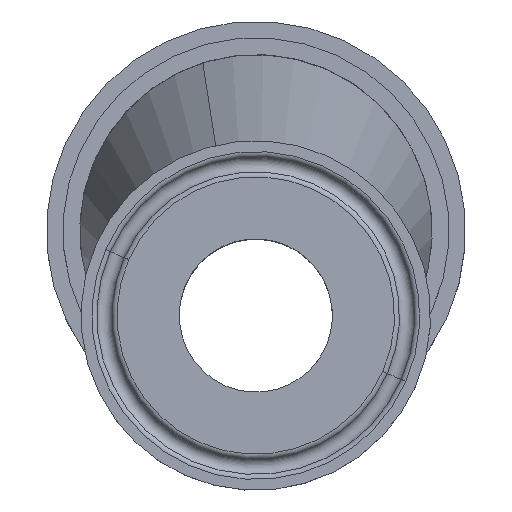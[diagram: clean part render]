
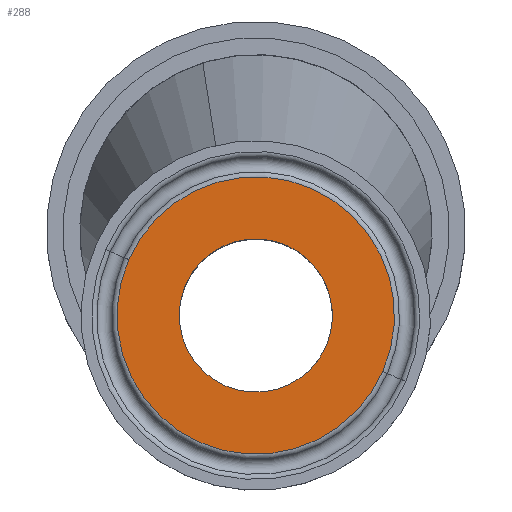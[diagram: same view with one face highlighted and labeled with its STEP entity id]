
A CAD part, top view. The second image highlights one B-rep face of the part: STEP entity #288.
In plain terms, the highlighted planar face has unit normal (0, 0.002, 1) as drawn and (0, -1, 0) by its records, which use the part's own axes.
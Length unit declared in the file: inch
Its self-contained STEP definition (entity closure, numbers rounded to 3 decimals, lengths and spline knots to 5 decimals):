
#14 = EDGE_CURVE ( 'NONE', #1911, #56, #313, .T. ) ;
#43 = DIRECTION ( 'NONE',  ( 0., 0., -1. ) ) ;
#56 = VERTEX_POINT ( 'NONE', #648 ) ;
#59 = AXIS2_PLACEMENT_3D ( 'NONE', #1173, #1028, #1067 ) ;
#63 = DIRECTION ( 'NONE',  ( 0., -1., 0. ) ) ;
#73 = EDGE_CURVE ( 'NONE', #56, #1911, #905, .T. ) ;
#288 = ADVANCED_FACE ( 'NONE', ( #1426, #1596 ), #1702, .F. ) ;
#313 = CIRCLE ( 'NONE', #59, 0.435 ) ;
#315 = CARTESIAN_POINT ( 'NONE',  ( 0., 0., 0. ) ) ;
#348 = VERTEX_POINT ( 'NONE', #411 ) ;
#352 = CARTESIAN_POINT ( 'NONE',  ( 0., 0., -0.78742 ) ) ;
#411 = CARTESIAN_POINT ( 'NONE',  ( 0., 0., 0.78742 ) ) ;
#434 = EDGE_LOOP ( 'NONE', ( #457, #1878 ) ) ;
#457 = ORIENTED_EDGE ( 'NONE', *, *, #1824, .T. ) ;
#648 = CARTESIAN_POINT ( 'NONE',  ( 0., 0., -0.435 ) ) ;
#705 = DIRECTION ( 'NONE',  ( 0., 1., 0. ) ) ;
#769 = DIRECTION ( 'NONE',  ( 0., -1., 0. ) ) ;
#805 = CARTESIAN_POINT ( 'NONE',  ( 0., 0., 0.435 ) ) ;
#815 = CARTESIAN_POINT ( 'NONE',  ( 0., 0., 0. ) ) ;
#856 = DIRECTION ( 'NONE',  ( 0., 0., 1. ) ) ;
#863 = ORIENTED_EDGE ( 'NONE', *, *, #14, .F. ) ;
#905 = CIRCLE ( 'NONE', #1774, 0.435 ) ;
#958 = DIRECTION ( 'NONE',  ( 0., -1., 0. ) ) ;
#977 = EDGE_CURVE ( 'NONE', #348, #1580, #1341, .T. ) ;
#984 = CARTESIAN_POINT ( 'NONE',  ( 0., 0., 0. ) ) ;
#1028 = DIRECTION ( 'NONE',  ( 0., -1., 0. ) ) ;
#1067 = DIRECTION ( 'NONE',  ( 0., 0., -1. ) ) ;
#1114 = DIRECTION ( 'NONE',  ( 0., 0., -1. ) ) ;
#1126 = AXIS2_PLACEMENT_3D ( 'NONE', #984, #705, #856 ) ;
#1173 = CARTESIAN_POINT ( 'NONE',  ( 0., 0., 0. ) ) ;
#1181 = ORIENTED_EDGE ( 'NONE', *, *, #73, .F. ) ;
#1276 = AXIS2_PLACEMENT_3D ( 'NONE', #315, #769, #1323 ) ;
#1323 = DIRECTION ( 'NONE',  ( 0., 0., -1. ) ) ;
#1341 = CIRCLE ( 'NONE', #1550, 0.78742 ) ;
#1426 = FACE_BOUND ( 'NONE', #1589, .T. ) ;
#1455 = CIRCLE ( 'NONE', #1276, 0.78742 ) ;
#1550 = AXIS2_PLACEMENT_3D ( 'NONE', #815, #63, #1114 ) ;
#1580 = VERTEX_POINT ( 'NONE', #352 ) ;
#1589 = EDGE_LOOP ( 'NONE', ( #1181, #863 ) ) ;
#1596 = FACE_OUTER_BOUND ( 'NONE', #434, .T. ) ;
#1702 = PLANE ( 'NONE',  #1126 ) ;
#1774 = AXIS2_PLACEMENT_3D ( 'NONE', #1837, #958, #43 ) ;
#1824 = EDGE_CURVE ( 'NONE', #1580, #348, #1455, .T. ) ;
#1837 = CARTESIAN_POINT ( 'NONE',  ( 0., 0., 0. ) ) ;
#1878 = ORIENTED_EDGE ( 'NONE', *, *, #977, .T. ) ;
#1911 = VERTEX_POINT ( 'NONE', #805 ) ;
